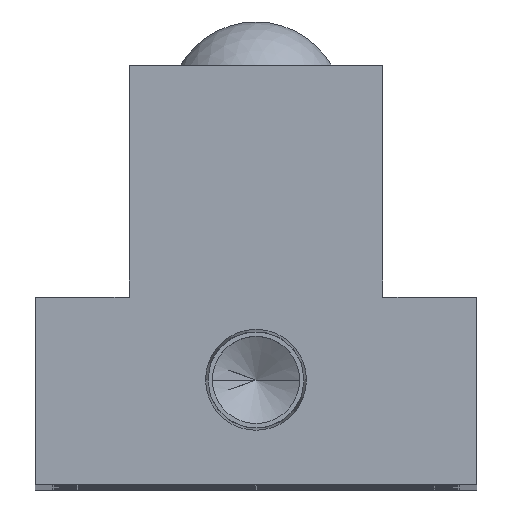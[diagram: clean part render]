
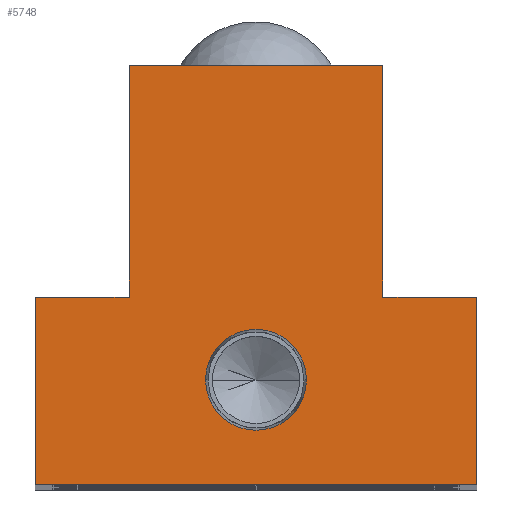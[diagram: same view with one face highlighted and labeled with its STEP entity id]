
A CAD part, top view. The second image highlights one B-rep face of the part: STEP entity #5748.
In plain terms, the highlighted planar face has unit normal (0, 0, 1).
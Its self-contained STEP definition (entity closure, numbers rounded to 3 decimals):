
#94 = EDGE_CURVE ( 'NONE', #2295, #1351, #837, .T. ) ;
#98 = CARTESIAN_POINT ( 'NONE',  ( -20., 0., 0. ) ) ;
#179 = DIRECTION ( 'NONE',  ( 1., 0., 0. ) ) ;
#312 = VECTOR ( 'NONE', #4602, 1000. ) ;
#318 = EDGE_CURVE ( 'NONE', #6508, #3912, #1212, .T. ) ;
#356 = VERTEX_POINT ( 'NONE', #6281 ) ;
#389 = VECTOR ( 'NONE', #1338, 1000. ) ;
#475 = CARTESIAN_POINT ( 'NONE',  ( -4.574, 9.5, 0. ) ) ;
#535 = DIRECTION ( 'NONE',  ( 0., 0., 1. ) ) ;
#608 = ORIENTED_EDGE ( 'NONE', *, *, #2812, .T. ) ;
#646 = CARTESIAN_POINT ( 'NONE',  ( 20., 17., 0. ) ) ;
#667 = LINE ( 'NONE', #5481, #5979 ) ;
#671 = DIRECTION ( 'NONE',  ( -1., 0., 0. ) ) ;
#725 = ORIENTED_EDGE ( 'NONE', *, *, #4880, .T. ) ;
#837 = CIRCLE ( 'NONE', #2584, 4.574 ) ;
#897 = AXIS2_PLACEMENT_3D ( 'NONE', #1250, #3277, #5272 ) ;
#1055 = VECTOR ( 'NONE', #1230, 1000. ) ;
#1139 = VERTEX_POINT ( 'NONE', #5265 ) ;
#1212 = LINE ( 'NONE', #4759, #1055 ) ;
#1230 = DIRECTION ( 'NONE',  ( 0., 1., 0. ) ) ;
#1250 = CARTESIAN_POINT ( 'NONE',  ( 0., 0., 0. ) ) ;
#1338 = DIRECTION ( 'NONE',  ( -1., 0., 0. ) ) ;
#1351 = VERTEX_POINT ( 'NONE', #475 ) ;
#1379 = VERTEX_POINT ( 'NONE', #1457 ) ;
#1386 = AXIS2_PLACEMENT_3D ( 'NONE', #3543, #535, #4047 ) ;
#1433 = VERTEX_POINT ( 'NONE', #2550 ) ;
#1445 = VECTOR ( 'NONE', #671, 1000. ) ;
#1457 = CARTESIAN_POINT ( 'NONE',  ( -11.5, 17., 0. ) ) ;
#1541 = ORIENTED_EDGE ( 'NONE', *, *, #4249, .T. ) ;
#1774 = PLANE ( 'NONE',  #897 ) ;
#2093 = EDGE_LOOP ( 'NONE', ( #1541, #4876, #608, #725, #2210, #2096, #3971, #5661 ) ) ;
#2096 = ORIENTED_EDGE ( 'NONE', *, *, #3341, .T. ) ;
#2190 = CARTESIAN_POINT ( 'NONE',  ( 20., 0., 0. ) ) ;
#2193 = VECTOR ( 'NONE', #179, 1000. ) ;
#2210 = ORIENTED_EDGE ( 'NONE', *, *, #5196, .T. ) ;
#2246 = CARTESIAN_POINT ( 'NONE',  ( 4.574, 9.5, 0. ) ) ;
#2295 = VERTEX_POINT ( 'NONE', #2246 ) ;
#2351 = CARTESIAN_POINT ( 'NONE',  ( 0., 9.5, 0. ) ) ;
#2508 = DIRECTION ( 'NONE',  ( 0., -1., 0. ) ) ;
#2529 = FACE_BOUND ( 'NONE', #5396, .T. ) ;
#2550 = CARTESIAN_POINT ( 'NONE',  ( -20., 0., 0. ) ) ;
#2584 = AXIS2_PLACEMENT_3D ( 'NONE', #2351, #5825, #2853 ) ;
#2738 = LINE ( 'NONE', #5349, #389 ) ;
#2752 = DIRECTION ( 'NONE',  ( 0., 1., 0. ) ) ;
#2798 = LINE ( 'NONE', #4790, #5287 ) ;
#2812 = EDGE_CURVE ( 'NONE', #3912, #3348, #2738, .T. ) ;
#2853 = DIRECTION ( 'NONE',  ( 1., 0., 0. ) ) ;
#3277 = DIRECTION ( 'NONE',  ( 0., 0., -1. ) ) ;
#3341 = EDGE_CURVE ( 'NONE', #4750, #1433, #5608, .T. ) ;
#3348 = VERTEX_POINT ( 'NONE', #4625 ) ;
#3414 = EDGE_CURVE ( 'NONE', #1433, #356, #6478, .T. ) ;
#3487 = CARTESIAN_POINT ( 'NONE',  ( 11.5, 17., 0. ) ) ;
#3543 = CARTESIAN_POINT ( 'NONE',  ( 0., 9.5, 0. ) ) ;
#3652 = VECTOR ( 'NONE', #2752, 1000. ) ;
#3912 = VERTEX_POINT ( 'NONE', #6234 ) ;
#3971 = ORIENTED_EDGE ( 'NONE', *, *, #3414, .T. ) ;
#4047 = DIRECTION ( 'NONE',  ( 1., 0., 0. ) ) ;
#4249 = EDGE_CURVE ( 'NONE', #1139, #6508, #5440, .T. ) ;
#4387 = CARTESIAN_POINT ( 'NONE',  ( -20., 17., 0. ) ) ;
#4602 = DIRECTION ( 'NONE',  ( 0., -1., 0. ) ) ;
#4625 = CARTESIAN_POINT ( 'NONE',  ( -11.5, 38., 0. ) ) ;
#4750 = VERTEX_POINT ( 'NONE', #4387 ) ;
#4759 = CARTESIAN_POINT ( 'NONE',  ( 11.5, 17., 0. ) ) ;
#4790 = CARTESIAN_POINT ( 'NONE',  ( -11.5, 17., 0. ) ) ;
#4876 = ORIENTED_EDGE ( 'NONE', *, *, #318, .T. ) ;
#4880 = EDGE_CURVE ( 'NONE', #3348, #1379, #667, .T. ) ;
#4909 = EDGE_CURVE ( 'NONE', #1351, #2295, #5833, .T. ) ;
#4934 = ORIENTED_EDGE ( 'NONE', *, *, #94, .F. ) ;
#4967 = LINE ( 'NONE', #5723, #3652 ) ;
#5196 = EDGE_CURVE ( 'NONE', #1379, #4750, #2798, .T. ) ;
#5265 = CARTESIAN_POINT ( 'NONE',  ( 20., 17., 0. ) ) ;
#5272 = DIRECTION ( 'NONE',  ( -1., 0., 0. ) ) ;
#5276 = DIRECTION ( 'NONE',  ( -1., 0., 0. ) ) ;
#5287 = VECTOR ( 'NONE', #5276, 1000. ) ;
#5349 = CARTESIAN_POINT ( 'NONE',  ( 11.5, 38., 0. ) ) ;
#5396 = EDGE_LOOP ( 'NONE', ( #4934, #5523 ) ) ;
#5440 = LINE ( 'NONE', #646, #1445 ) ;
#5481 = CARTESIAN_POINT ( 'NONE',  ( -11.5, 17., 0. ) ) ;
#5523 = ORIENTED_EDGE ( 'NONE', *, *, #4909, .F. ) ;
#5608 = LINE ( 'NONE', #98, #312 ) ;
#5661 = ORIENTED_EDGE ( 'NONE', *, *, #5709, .T. ) ;
#5709 = EDGE_CURVE ( 'NONE', #356, #1139, #4967, .T. ) ;
#5723 = CARTESIAN_POINT ( 'NONE',  ( 20., 17., 0. ) ) ;
#5748 = ADVANCED_FACE ( 'NONE', ( #2529, #6366 ), #1774, .F. ) ;
#5825 = DIRECTION ( 'NONE',  ( 0., 0., 1. ) ) ;
#5833 = CIRCLE ( 'NONE', #1386, 4.574 ) ;
#5979 = VECTOR ( 'NONE', #2508, 1000. ) ;
#6234 = CARTESIAN_POINT ( 'NONE',  ( 11.5, 38., 0. ) ) ;
#6281 = CARTESIAN_POINT ( 'NONE',  ( 20., 0., 0. ) ) ;
#6366 = FACE_OUTER_BOUND ( 'NONE', #2093, .T. ) ;
#6478 = LINE ( 'NONE', #2190, #2193 ) ;
#6508 = VERTEX_POINT ( 'NONE', #3487 ) ;
